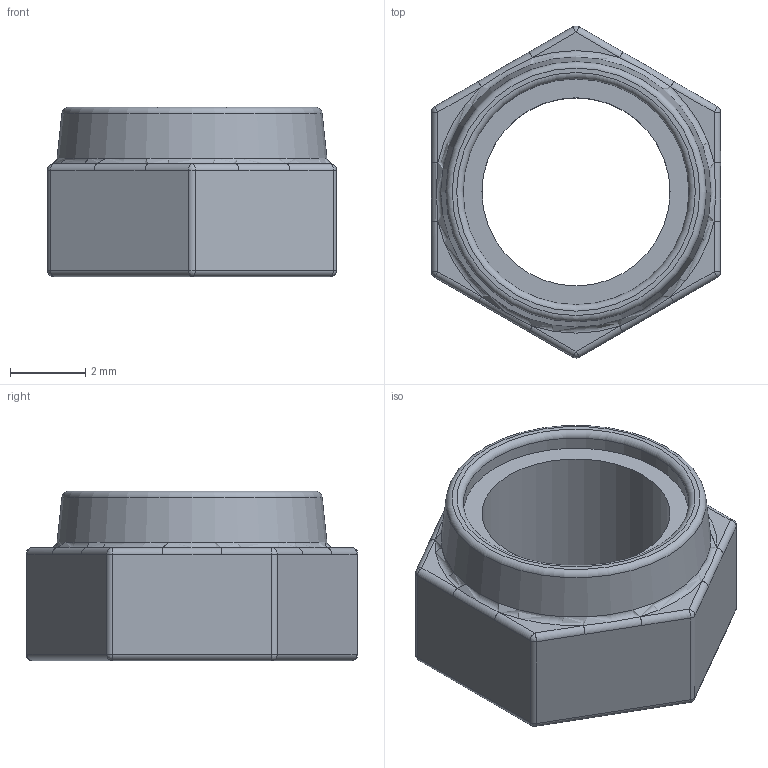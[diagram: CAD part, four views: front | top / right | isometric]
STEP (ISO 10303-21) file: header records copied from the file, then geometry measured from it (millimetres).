
FILE_DESCRIPTION(/* description */ ('STEP AP242 Edition 2','CAx-IF Rec.Pracs.---Representation and Presentation of Product Manufacturing Information (PMI)---4.0---2014-10-13','CAx-IF Rec.Pracs.---3D Tessellated Geometry---0.4---2014-09-14','2;1','CAx-IF Rec.Pracs.---User Defined Attributes---1.5---2016-08-15'),/* implementation_level */ '2;1');
FILE_NAME(/* name */ 'Final Build - M5 Locknut nut (3)',/* time_stamp */ '2026-08-31T23:26:15Z',/* author */ (''),/* organization */ (''),/* preprocessor_version */ 'ST-DEVELOPER v20',/* originating_system */ 'ONSHAPE BY PTC INC, 1.220',/* authorisation */ ' ');
FILE_SCHEMA (('AP242_MANAGED_MODEL_BASED_3D_ENGINEERING_MIM_LF { 1 0 10303 442 3 1 4 }'));
Length unit declared in the file: metre
Products named in the file (1): M5 Locknut nut
Bounding box: 7.68 x 8.82 x 4.5 mm (x, y, z)
Volume: 118.7 mm3; surface area: 236.9 mm2
Topology: 1 solids, 1 shells, 63 faces, 129 edges, 69 vertices
Faces by surface type: cylinder 32, plane 15, sphere 12, torus 3, cone 1
Full cylindrical faces by diameter (mm): 5 x1, 6 x1
Entity records: 1641 total; most frequent: CARTESIAN_POINT 346, DIRECTION 276, ORIENTED_EDGE 246, EDGE_CURVE 123, AXIS2_PLACEMENT_3D 114, EDGE_LOOP 72, FACE_BOUND 72, VERTEX_POINT 69
